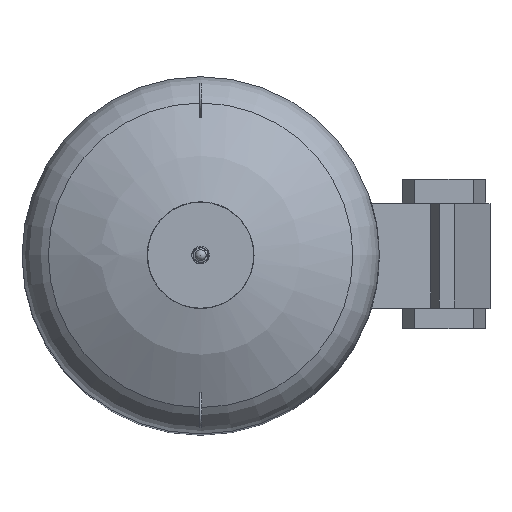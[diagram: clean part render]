
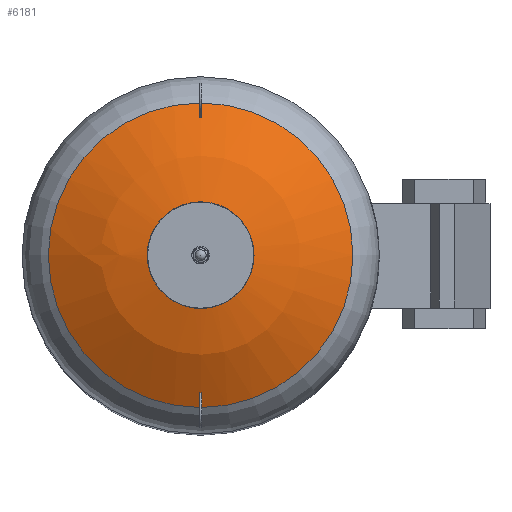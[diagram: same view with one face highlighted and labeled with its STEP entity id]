
A CAD part, top view. The second image highlights one B-rep face of the part: STEP entity #6181.
In plain terms, the highlighted spherical face has radius 633.9 mm.
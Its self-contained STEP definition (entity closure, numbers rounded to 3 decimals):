
#18=SPHERICAL_SURFACE('',#6833,633.9);
#792=FACE_OUTER_BOUND('',#1153,.T.);
#1153=EDGE_LOOP('',(#5328,#5329,#5330,#5331,#5332));
#2364=CIRCLE('',#6832,94.);
#2365=CIRCLE('',#6834,633.9);
#2366=CIRCLE('',#6835,335.793);
#2367=CIRCLE('',#6836,335.793);
#2976=VERTEX_POINT('',#10526);
#2977=VERTEX_POINT('',#10529);
#2978=VERTEX_POINT('',#10531);
#3812=EDGE_CURVE('',#2976,#2976,#2364,.T.);
#3813=EDGE_CURVE('',#2976,#2977,#2365,.T.);
#3814=EDGE_CURVE('',#2978,#2977,#2366,.T.);
#3815=EDGE_CURVE('',#2977,#2978,#2367,.T.);
#5328=ORIENTED_EDGE('',*,*,#3812,.T.);
#5329=ORIENTED_EDGE('',*,*,#3813,.T.);
#5330=ORIENTED_EDGE('',*,*,#3814,.F.);
#5331=ORIENTED_EDGE('',*,*,#3815,.F.);
#5332=ORIENTED_EDGE('',*,*,#3813,.F.);
#6181=ADVANCED_FACE('',(#792),#18,.T.);
#6832=AXIS2_PLACEMENT_3D('',#10527,#8482,#8483);
#6833=AXIS2_PLACEMENT_3D('',#10528,#8484,#8485);
#6834=AXIS2_PLACEMENT_3D('',#10530,#8486,#8487);
#6835=AXIS2_PLACEMENT_3D('',#10532,#8488,#8489);
#6836=AXIS2_PLACEMENT_3D('',#10533,#8490,#8491);
#8482=DIRECTION('center_axis',(0.,0.,-1.));
#8483=DIRECTION('ref_axis',(1.,0.,0.));
#8484=DIRECTION('center_axis',(0.,0.,1.));
#8485=DIRECTION('ref_axis',(1.,0.,0.));
#8486=DIRECTION('center_axis',(0.,-1.,0.));
#8487=DIRECTION('ref_axis',(-1.,0.,0.));
#8488=DIRECTION('center_axis',(0.,0.,-1.));
#8489=DIRECTION('ref_axis',(1.,0.,0.));
#8490=DIRECTION('center_axis',(0.,0.,-1.));
#8491=DIRECTION('ref_axis',(1.,0.,0.));
#10526=CARTESIAN_POINT('',(-94.,0.,2316.492));
#10527=CARTESIAN_POINT('Origin',(0.,0.,2316.492));
#10528=CARTESIAN_POINT('Origin',(0.,0.,1689.6));
#10529=CARTESIAN_POINT('',(-335.793,0.,2227.255));
#10530=CARTESIAN_POINT('Origin',(0.,0.,1689.6));
#10531=CARTESIAN_POINT('',(335.793,0.,2227.255));
#10532=CARTESIAN_POINT('Origin',(0.,0.,2227.255));
#10533=CARTESIAN_POINT('Origin',(0.,0.,2227.255));
